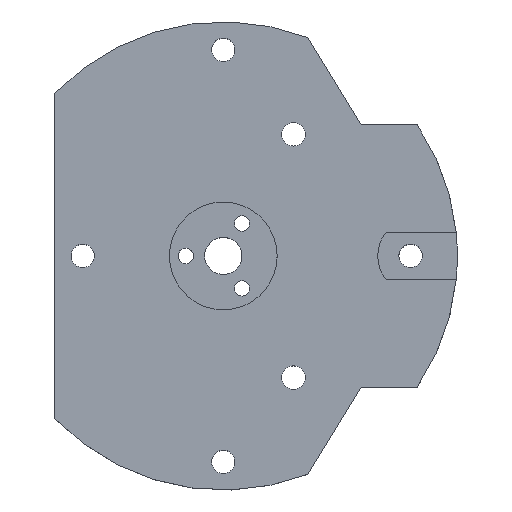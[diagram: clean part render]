
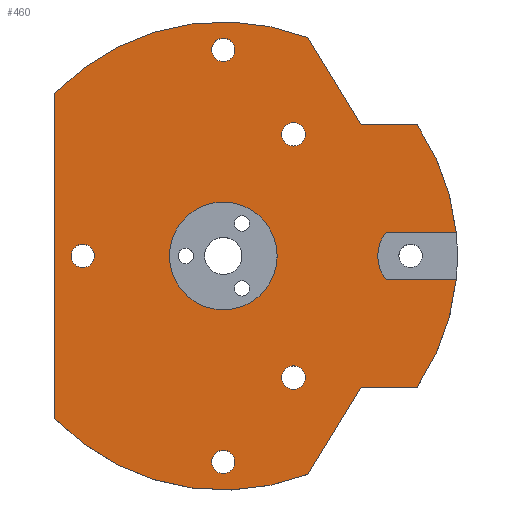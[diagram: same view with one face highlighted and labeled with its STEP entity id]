
A CAD part, top view. The second image highlights one B-rep face of the part: STEP entity #460.
In plain terms, the highlighted planar face has unit normal (0, 0, 1).
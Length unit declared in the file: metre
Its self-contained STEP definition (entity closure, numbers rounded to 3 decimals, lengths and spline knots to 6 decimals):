
#12=PLANE('',#505);
#29=LINE('',#737,#55);
#30=LINE('',#739,#56);
#31=LINE('',#743,#57);
#32=LINE('',#744,#58);
#33=LINE('',#746,#59);
#34=LINE('',#747,#60);
#35=LINE('',#751,#61);
#55=VECTOR('',#591,1.);
#56=VECTOR('',#592,1.);
#57=VECTOR('',#595,1.);
#58=VECTOR('',#596,1.);
#59=VECTOR('',#597,1.);
#60=VECTOR('',#598,1.);
#61=VECTOR('',#601,1.);
#87=ORIENTED_EDGE('',*,*,#203,.T.);
#88=ORIENTED_EDGE('',*,*,#204,.T.);
#89=ORIENTED_EDGE('',*,*,#205,.T.);
#90=ORIENTED_EDGE('',*,*,#206,.T.);
#91=ORIENTED_EDGE('',*,*,#207,.T.);
#92=ORIENTED_EDGE('',*,*,#208,.F.);
#93=ORIENTED_EDGE('',*,*,#191,.T.);
#94=ORIENTED_EDGE('',*,*,#209,.T.);
#95=ORIENTED_EDGE('',*,*,#210,.F.);
#96=ORIENTED_EDGE('',*,*,#211,.F.);
#97=ORIENTED_EDGE('',*,*,#195,.T.);
#98=ORIENTED_EDGE('',*,*,#212,.T.);
#99=ORIENTED_EDGE('',*,*,#213,.T.);
#100=ORIENTED_EDGE('',*,*,#202,.T.);
#101=ORIENTED_EDGE('',*,*,#214,.T.);
#102=ORIENTED_EDGE('',*,*,#215,.T.);
#103=ORIENTED_EDGE('',*,*,#216,.F.);
#104=ORIENTED_EDGE('',*,*,#217,.F.);
#191=EDGE_CURVE('',#249,#250,#295,.T.);
#195=EDGE_CURVE('',#254,#253,#297,.T.);
#202=EDGE_CURVE('',#258,#260,#300,.T.);
#203=EDGE_CURVE('',#261,#261,#301,.F.);
#204=EDGE_CURVE('',#262,#262,#302,.F.);
#205=EDGE_CURVE('',#263,#263,#303,.F.);
#206=EDGE_CURVE('',#264,#264,#304,.F.);
#207=EDGE_CURVE('',#265,#265,#305,.F.);
#208=EDGE_CURVE('',#249,#266,#29,.T.);
#209=EDGE_CURVE('',#250,#267,#30,.T.);
#210=EDGE_CURVE('',#268,#267,#306,.T.);
#211=EDGE_CURVE('',#254,#268,#31,.T.);
#212=EDGE_CURVE('',#253,#269,#32,.T.);
#213=EDGE_CURVE('',#269,#258,#33,.T.);
#214=EDGE_CURVE('',#260,#270,#34,.T.);
#215=EDGE_CURVE('',#270,#271,#307,.T.);
#216=EDGE_CURVE('',#266,#271,#35,.T.);
#217=EDGE_CURVE('',#272,#272,#308,.T.);
#249=VERTEX_POINT('',#702);
#250=VERTEX_POINT('',#703);
#253=VERTEX_POINT('',#709);
#254=VERTEX_POINT('',#711);
#258=VERTEX_POINT('',#720);
#260=VERTEX_POINT('',#724);
#261=VERTEX_POINT('',#728);
#262=VERTEX_POINT('',#730);
#263=VERTEX_POINT('',#732);
#264=VERTEX_POINT('',#734);
#265=VERTEX_POINT('',#736);
#266=VERTEX_POINT('',#738);
#267=VERTEX_POINT('',#740);
#268=VERTEX_POINT('',#742);
#269=VERTEX_POINT('',#745);
#270=VERTEX_POINT('',#748);
#271=VERTEX_POINT('',#750);
#272=VERTEX_POINT('',#753);
#295=CIRCLE('',#498,0.05);
#297=CIRCLE('',#500,0.05);
#300=CIRCLE('',#504,0.05);
#301=CIRCLE('',#506,0.0025);
#302=CIRCLE('',#507,0.0025);
#303=CIRCLE('',#508,0.0025);
#304=CIRCLE('',#509,0.0025);
#305=CIRCLE('',#510,0.0025);
#306=CIRCLE('',#511,0.008);
#307=CIRCLE('',#512,0.05);
#308=CIRCLE('',#513,0.0115);
#329=EDGE_LOOP('',(#87));
#330=EDGE_LOOP('',(#88));
#331=EDGE_LOOP('',(#89));
#332=EDGE_LOOP('',(#90));
#333=EDGE_LOOP('',(#91));
#334=EDGE_LOOP('',(#92,#93,#94,#95,#96,#97,#98,#99,#100,#101,#102,#103));
#335=EDGE_LOOP('',(#104));
#387=FACE_BOUND('',#329,.T.);
#388=FACE_BOUND('',#330,.T.);
#389=FACE_BOUND('',#331,.T.);
#390=FACE_BOUND('',#332,.T.);
#391=FACE_BOUND('',#333,.T.);
#392=FACE_BOUND('',#334,.T.);
#393=FACE_BOUND('',#335,.T.);
#460=ADVANCED_FACE('',(#387,#388,#389,#390,#391,#392,#393),#12,.T.);
#498=AXIS2_PLACEMENT_3D('',#701,#559,#560);
#500=AXIS2_PLACEMENT_3D('',#710,#565,#566);
#504=AXIS2_PLACEMENT_3D('',#725,#577,#578);
#505=AXIS2_PLACEMENT_3D('',#726,#579,#580);
#506=AXIS2_PLACEMENT_3D('',#727,#581,#582);
#507=AXIS2_PLACEMENT_3D('',#729,#583,#584);
#508=AXIS2_PLACEMENT_3D('',#731,#585,#586);
#509=AXIS2_PLACEMENT_3D('',#733,#587,#588);
#510=AXIS2_PLACEMENT_3D('',#735,#589,#590);
#511=AXIS2_PLACEMENT_3D('',#741,#593,#594);
#512=AXIS2_PLACEMENT_3D('',#749,#599,#600);
#513=AXIS2_PLACEMENT_3D('',#752,#602,#603);
#559=DIRECTION('',(0.,0.,1.));
#560=DIRECTION('',(1.,0.,0.));
#565=DIRECTION('',(0.,0.,1.));
#566=DIRECTION('',(1.,0.,0.));
#577=DIRECTION('',(0.,0.,1.));
#578=DIRECTION('',(1.,0.,0.));
#579=DIRECTION('',(0.,0.,1.));
#580=DIRECTION('',(1.,0.,0.));
#581=DIRECTION('',(0.,0.,1.));
#582=DIRECTION('',(1.,0.,0.));
#583=DIRECTION('',(0.,0.,1.));
#584=DIRECTION('',(1.,0.,0.));
#585=DIRECTION('',(0.,0.,1.));
#586=DIRECTION('',(1.,0.,0.));
#587=DIRECTION('',(0.,0.,1.));
#588=DIRECTION('',(1.,0.,0.));
#589=DIRECTION('',(0.,0.,1.));
#590=DIRECTION('',(1.,0.,0.));
#591=DIRECTION('',(-1.,0.,0.));
#592=DIRECTION('',(-1.,0.,0.));
#593=DIRECTION('',(0.,0.,1.));
#594=DIRECTION('',(1.,0.,0.));
#595=DIRECTION('',(-1.,0.,0.));
#596=DIRECTION('',(-1.,0.,0.));
#597=DIRECTION('',(-0.522,0.853,0.));
#598=DIRECTION('',(0.,-1.,0.));
#599=DIRECTION('',(0.,0.,1.));
#600=DIRECTION('',(1.,0.,0.));
#601=DIRECTION('',(-0.522,-0.853,0.));
#602=DIRECTION('',(0.,0.,1.));
#603=DIRECTION('',(1.,0.,0.));
#701=CARTESIAN_POINT('',(0.,0.,0.008));
#702=CARTESIAN_POINT('',(0.041425,-0.028,0.008));
#703=CARTESIAN_POINT('',(0.049749,-0.005,0.008));
#709=CARTESIAN_POINT('',(0.041425,0.028,0.008));
#710=CARTESIAN_POINT('',(0.,0.,0.008));
#711=CARTESIAN_POINT('',(0.049749,0.005,0.008));
#720=CARTESIAN_POINT('',(0.018,0.046648,0.008));
#724=CARTESIAN_POINT('',(-0.036,0.034699,0.008));
#725=CARTESIAN_POINT('',(0.,0.,0.008));
#726=CARTESIAN_POINT('',(0.007,0.,0.008));
#727=CARTESIAN_POINT('',(-0.03,0.,0.008));
#728=CARTESIAN_POINT('',(-0.0275,0.,0.008));
#729=CARTESIAN_POINT('',(0.,0.044,0.008));
#730=CARTESIAN_POINT('',(0.0025,0.044,0.008));
#731=CARTESIAN_POINT('',(0.015,0.025981,0.008));
#732=CARTESIAN_POINT('',(0.0175,0.025981,0.008));
#733=CARTESIAN_POINT('',(0.015,-0.025981,0.008));
#734=CARTESIAN_POINT('',(0.0175,-0.025981,0.008));
#735=CARTESIAN_POINT('',(0.,-0.044,0.008));
#736=CARTESIAN_POINT('',(0.0025,-0.044,0.008));
#737=CARTESIAN_POINT('',(0.035425,-0.028,0.008));
#738=CARTESIAN_POINT('',(0.029425,-0.028,0.008));
#739=CARTESIAN_POINT('',(0.042252,-0.005,0.008));
#740=CARTESIAN_POINT('',(0.034755,-0.005,0.008));
#741=CARTESIAN_POINT('',(0.041,0.,0.008));
#742=CARTESIAN_POINT('',(0.034755,0.005,0.008));
#743=CARTESIAN_POINT('',(0.042252,0.005,0.008));
#744=CARTESIAN_POINT('',(0.035425,0.028,0.008));
#745=CARTESIAN_POINT('',(0.029425,0.028,0.008));
#746=CARTESIAN_POINT('',(0.023712,0.037324,0.008));
#747=CARTESIAN_POINT('',(-0.036,0.,0.008));
#748=CARTESIAN_POINT('',(-0.036,-0.034699,0.008));
#749=CARTESIAN_POINT('',(0.,0.,0.008));
#750=CARTESIAN_POINT('',(0.018,-0.046648,0.008));
#751=CARTESIAN_POINT('',(0.023712,-0.037324,0.008));
#752=CARTESIAN_POINT('',(0.,0.,0.008));
#753=CARTESIAN_POINT('',(0.0115,0.,0.008));
